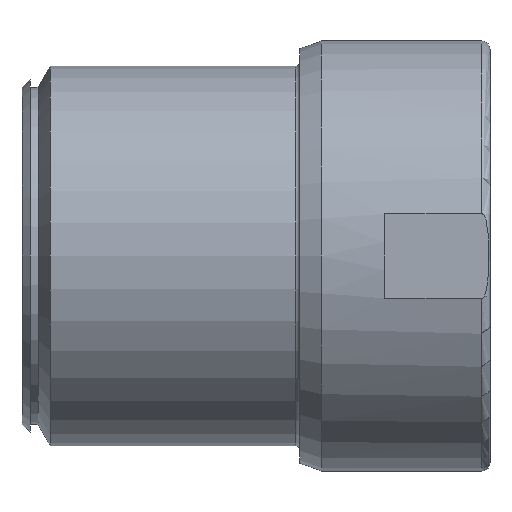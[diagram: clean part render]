
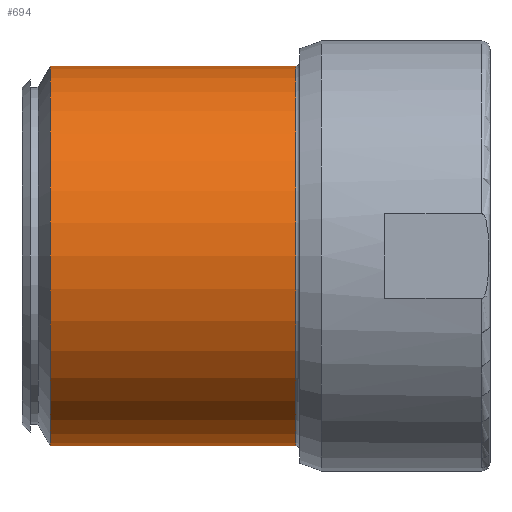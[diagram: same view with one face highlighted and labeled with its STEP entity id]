
A CAD part, front view. The second image highlights one B-rep face of the part: STEP entity #694.
In plain terms, the highlighted cylindrical face has radius 45 mm (diameter 90 mm), a partial arc.
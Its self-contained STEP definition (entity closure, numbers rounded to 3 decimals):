
#16 = AXIS2_PLACEMENT_3D ( 'NONE', #912, #913, #914 ) ;
#33 = VECTOR ( 'NONE', #902, 1000. ) ;
#223 = EDGE_LOOP ( 'NONE', ( #1144, #1143, #1145, #1146 ) ) ;
#306 = DIRECTION ( 'NONE',  ( -1., 0., 0. ) ) ;
#309 = FACE_OUTER_BOUND ( 'NONE', #223, .T. ) ;
#310 = CARTESIAN_POINT ( 'NONE',  ( -5.267, 0., 0. ) ) ;
#312 = CYLINDRICAL_SURFACE ( 'NONE', #593, 45. ) ;
#313 = DIRECTION ( 'NONE',  ( 0., 0., 1. ) ) ;
#378 = CARTESIAN_POINT ( 'NONE',  ( 6.691, 0., 0. ) ) ;
#379 = DIRECTION ( 'NONE',  ( -1., 0., 0. ) ) ;
#380 = DIRECTION ( 'NONE',  ( 0., 0., -1. ) ) ;
#477 = CARTESIAN_POINT ( 'NONE',  ( 6.691, 0., 45. ) ) ;
#488 = CARTESIAN_POINT ( 'NONE',  ( 6.691, 0., -45. ) ) ;
#490 = CARTESIAN_POINT ( 'NONE',  ( 64.917, 0., -45. ) ) ;
#492 = CARTESIAN_POINT ( 'NONE',  ( 64.917, 0., 45. ) ) ;
#553 = EDGE_CURVE ( 'NONE', #1175, #1174, #900, .T. ) ;
#556 = EDGE_CURVE ( 'NONE', #1179, #1180, #903, .T. ) ;
#557 = EDGE_CURVE ( 'NONE', #1175, #1179, #580, .T. ) ;
#575 = VECTOR ( 'NONE', #911, 1000. ) ;
#580 = CIRCLE ( 'NONE', #16, 45. ) ;
#593 = AXIS2_PLACEMENT_3D ( 'NONE', #310, #306, #313 ) ;
#606 = CIRCLE ( 'NONE', #607, 45. ) ;
#607 = AXIS2_PLACEMENT_3D ( 'NONE', #378, #379, #380 ) ;
#694 = ADVANCED_FACE ( 'NONE', ( #309 ), #312, .T. ) ;
#900 = LINE ( 'NONE', #901, #33 ) ;
#901 = CARTESIAN_POINT ( 'NONE',  ( -5.267, 0., -45. ) ) ;
#902 = DIRECTION ( 'NONE',  ( -1., 0., 0. ) ) ;
#903 = LINE ( 'NONE', #904, #575 ) ;
#904 = CARTESIAN_POINT ( 'NONE',  ( -5.267, 0., 45. ) ) ;
#911 = DIRECTION ( 'NONE',  ( -1., 0., 0. ) ) ;
#912 = CARTESIAN_POINT ( 'NONE',  ( 64.917, 0., 0. ) ) ;
#913 = DIRECTION ( 'NONE',  ( -1., 0., 0. ) ) ;
#914 = DIRECTION ( 'NONE',  ( 0., 0., 1. ) ) ;
#975 = EDGE_CURVE ( 'NONE', #1174, #1180, #606, .T. ) ;
#1143 = ORIENTED_EDGE ( 'NONE', *, *, #557, .T. ) ;
#1144 = ORIENTED_EDGE ( 'NONE', *, *, #553, .F. ) ;
#1145 = ORIENTED_EDGE ( 'NONE', *, *, #556, .T. ) ;
#1146 = ORIENTED_EDGE ( 'NONE', *, *, #975, .F. ) ;
#1174 = VERTEX_POINT ( 'NONE', #488 ) ;
#1175 = VERTEX_POINT ( 'NONE', #490 ) ;
#1179 = VERTEX_POINT ( 'NONE', #492 ) ;
#1180 = VERTEX_POINT ( 'NONE', #477 ) ;
